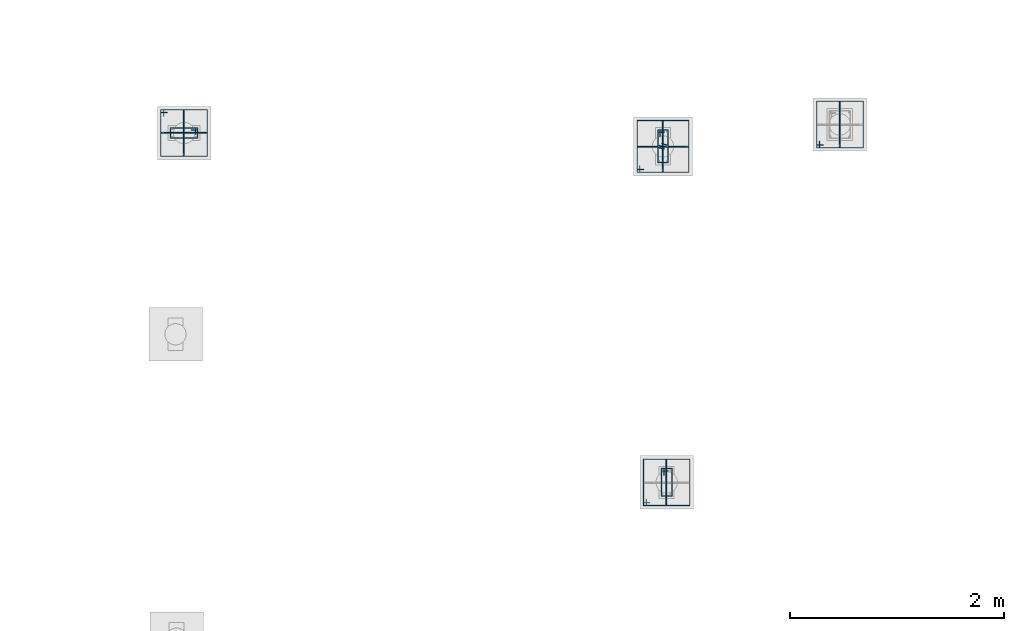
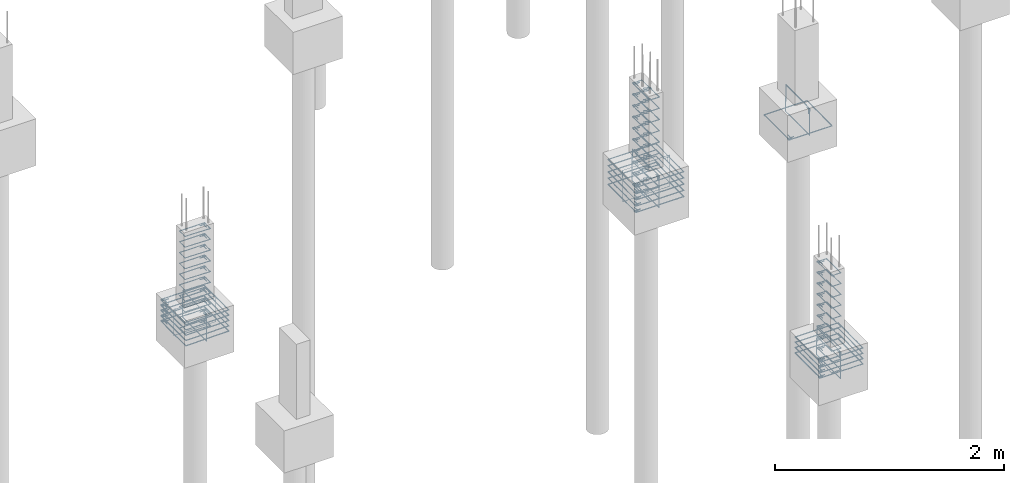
# One storey, part 91 of 119: 61 reinforcing bars.
"""IFC4 building model written with IfcOpenShell, lengths in centimetres."""

from ifc_helpers import new_model, entity, si_unit, derived_unit, frame, origin_with_axes, place, context, project, spatial, source, transform, mapped, element, save


model = new_model("IFC4")

# Units and contexts
model_context = context("Model", 3, precision=1e-05, world=origin_with_axes(), identifier="Body")
ifc_project = project(units=[si_unit("LENGTHUNIT", "METRE", prefix="CENTI"), si_unit("VOLUMEUNIT", "CUBIC_METRE"), si_unit("AREAUNIT", "SQUARE_METRE"), si_unit("POWERUNIT", "WATT"), si_unit("LUMINOUSFLUXUNIT", "LUMEN"), si_unit("ELECTRICCURRENTUNIT", "AMPERE"), si_unit("PRESSUREUNIT", "PASCAL", prefix="KILO"), si_unit("MASSUNIT", "GRAM", prefix="KILO"), si_unit("PLANEANGLEUNIT", "RADIAN"), derived_unit("VOLUMETRICFLOWRATEUNIT", [(si_unit("LENGTHUNIT", "METRE"), 3), (si_unit("TIMEUNIT", "SECOND"), -1)])], contexts=[model_context])

# Site, building, storey
site_placement = place(None, frame((-4000.0, 0.0, 0.0), z_axis=(0.0, 0.0, 1.0), x_axis=(1.0, 0.0, 0.0)))
site = spatial("IfcSite", under=ifc_project, at=site_placement, Name="PADRÃO")
building_placement = place(site_placement, frame((0.0, 0.0, -14.0)))
building = spatial("IfcBuilding", under=site, at=building_placement, Name="CRECHE PRÉ-ESCOLA TIPO 2")
storey_placement = place(building_placement, origin_with_axes())
storey = spatial("IfcBuildingStorey", under=building, at=storey_placement, Name="FUNDAÇÃO", CompositionType="ELEMENT", Elevation=-14.0)

# Reinforcing bars
shared_shape_1 = source(origin_with_axes(), model_context, "Body", "AdvancedSweptSolid", [
    entity("IfcSweptDiskSolid", entity("IfcCompositeCurve", [entity("IfcCompositeCurveSegment", "CONTINUOUS", True, entity("IfcPolyline", [entity("IfcCartesianPoint", [3129.595, 2567.355, 0.0]), entity("IfcCartesianPoint", [3123.335, 2567.355, 0.0])])), entity("IfcCompositeCurveSegment", "CONTINUOUS", True, entity("IfcPolyline", [entity("IfcCartesianPoint", [3123.335, 2567.355, 0.0]), entity("IfcCartesianPoint", [3123.335, 2564.835, 0.0])])), entity("IfcCompositeCurveSegment", "CONTINUOUS", True, entity("IfcPolyline", [entity("IfcCartesianPoint", [3123.335, 2564.835, 0.0]), entity("IfcCartesianPoint", [3166.705, 2564.835, 0.0])])), entity("IfcCompositeCurveSegment", "CONTINUOUS", True, entity("IfcPolyline", [entity("IfcCartesianPoint", [3166.705, 2564.835, 0.0]), entity("IfcCartesianPoint", [3166.705, 2608.205, 0.63])])), entity("IfcCompositeCurveSegment", "CONTINUOUS", True, entity("IfcPolyline", [entity("IfcCartesianPoint", [3166.705, 2608.205, 0.63]), entity("IfcCartesianPoint", [3123.335, 2608.205, 0.63])])), entity("IfcCompositeCurveSegment", "CONTINUOUS", True, entity("IfcPolyline", [entity("IfcCartesianPoint", [3123.335, 2608.205, 0.63]), entity("IfcCartesianPoint", [3123.335, 2564.835, 0.63])])), entity("IfcCompositeCurveSegment", "CONTINUOUS", True, entity("IfcPolyline", [entity("IfcCartesianPoint", [3123.335, 2564.835, 0.63]), entity("IfcCartesianPoint", [3125.855, 2564.835, 0.63])])), entity("IfcCompositeCurveSegment", "CONTINUOUS", True, entity("IfcPolyline", [entity("IfcCartesianPoint", [3125.855, 2564.835, 0.63]), entity("IfcCartesianPoint", [3125.855, 2571.095, 0.63])]))], False), 0.315),
])
reinforcing_bar_1_placement = place(storey_placement, frame((0.0, 0.0, -109.175), z_axis=(0.0, 0.0, 1.0), x_axis=(1.0, 0.0, 0.0)))
element("IfcReinforcingBar", 1, at=reinforcing_bar_1_placement, inside=storey, Name="P74 - Blocos (estribos)", BarLength=0.0, CrossSectionArea=3.1172453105e-05, NominalDiameter=0.63, PredefinedType="MAIN", context=model_context, shape_type="MappedRepresentation", body=[
    mapped(shared_shape_1, transform((0.0, 0.0, 0.0), scale=1.0)),
])
shared_shape_2 = source(origin_with_axes(), model_context, "Body", "AdvancedSweptSolid", [
    entity("IfcSweptDiskSolid", entity("IfcCompositeCurve", [entity("IfcCompositeCurveSegment", "CONTINUOUS", True, entity("IfcPolyline", [entity("IfcCartesianPoint", [-15.12, -12.0, 0.0]), entity("IfcCartesianPoint", [-21.12, -12.0, 0.0])])), entity("IfcCompositeCurveSegment", "CONTINUOUS", True, entity("IfcPolyline", [entity("IfcCartesianPoint", [-21.12, -12.0, 0.0]), entity("IfcCartesianPoint", [-21.12, -14.0, 0.0])])), entity("IfcCompositeCurveSegment", "CONTINUOUS", True, entity("IfcPolyline", [entity("IfcCartesianPoint", [-21.12, -14.0, 0.0]), entity("IfcCartesianPoint", [21.12, -14.0, 0.0])])), entity("IfcCompositeCurveSegment", "CONTINUOUS", True, entity("IfcPolyline", [entity("IfcCartesianPoint", [21.12, -14.0, 0.0]), entity("IfcCartesianPoint", [21.12, 14.0, 0.5])])), entity("IfcCompositeCurveSegment", "CONTINUOUS", True, entity("IfcPolyline", [entity("IfcCartesianPoint", [21.12, 14.0, 0.5]), entity("IfcCartesianPoint", [-21.12, 14.0, 0.5])])), entity("IfcCompositeCurveSegment", "CONTINUOUS", True, entity("IfcPolyline", [entity("IfcCartesianPoint", [-21.12, 14.0, 0.5]), entity("IfcCartesianPoint", [-21.12, -14.0, 0.5])])), entity("IfcCompositeCurveSegment", "CONTINUOUS", True, entity("IfcPolyline", [entity("IfcCartesianPoint", [-21.12, -14.0, 0.5]), entity("IfcCartesianPoint", [-19.12, -14.0, 0.5])])), entity("IfcCompositeCurveSegment", "CONTINUOUS", True, entity("IfcPolyline", [entity("IfcCartesianPoint", [-19.12, -14.0, 0.5]), entity("IfcCartesianPoint", [-19.12, -8.0, 0.5])]))], False), 0.25),
])
reinforcing_bar_2_placement = place(storey_placement, frame((3145.02, 2586.52, -97.75), z_axis=(-1.0, 0.0, 0.0), x_axis=(0.0, 1.0, 0.0)))
element("IfcReinforcingBar", 2, at=reinforcing_bar_2_placement, inside=storey, Name="P74 - Blocos (estribos)", BarLength=0.0, CrossSectionArea=1.9634954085e-05, NominalDiameter=0.5, PredefinedType="MAIN", context=model_context, shape_type="MappedRepresentation", body=[
    mapped(shared_shape_2, transform((0.0, 0.0, 0.0), scale=1.0)),
])
shared_shape_3 = source(origin_with_axes(), model_context, "Body", "AdvancedSweptSolid", [
    entity("IfcSweptDiskSolid", entity("IfcCompositeCurve", [entity("IfcCompositeCurveSegment", "CONTINUOUS", True, entity("IfcPolyline", [entity("IfcCartesianPoint", [4.25, 26.75, 0.0]), entity("IfcCartesianPoint", [4.25, 32.75, 0.0])])), entity("IfcCompositeCurveSegment", "CONTINUOUS", True, entity("IfcPolyline", [entity("IfcCartesianPoint", [4.25, 32.75, 0.0]), entity("IfcCartesianPoint", [2.25, 32.75, 0.0])])), entity("IfcCompositeCurveSegment", "CONTINUOUS", True, entity("IfcPolyline", [entity("IfcCartesianPoint", [2.25, 32.75, 0.0]), entity("IfcCartesianPoint", [2.25, 2.25, 0.0])])), entity("IfcCompositeCurveSegment", "CONTINUOUS", True, entity("IfcPolyline", [entity("IfcCartesianPoint", [2.25, 2.25, 0.0]), entity("IfcCartesianPoint", [11.75, 2.25, 0.0])])), entity("IfcCompositeCurveSegment", "CONTINUOUS", True, entity("IfcPolyline", [entity("IfcCartesianPoint", [11.75, 2.25, 0.0]), entity("IfcCartesianPoint", [11.75, 32.75, -0.5])])), entity("IfcCompositeCurveSegment", "CONTINUOUS", True, entity("IfcPolyline", [entity("IfcCartesianPoint", [11.75, 32.75, -0.5]), entity("IfcCartesianPoint", [2.25, 32.75, -0.5])])), entity("IfcCompositeCurveSegment", "CONTINUOUS", True, entity("IfcPolyline", [entity("IfcCartesianPoint", [2.25, 32.75, -0.5]), entity("IfcCartesianPoint", [2.25, 30.75, -0.5])])), entity("IfcCompositeCurveSegment", "CONTINUOUS", True, entity("IfcPolyline", [entity("IfcCartesianPoint", [2.25, 30.75, -0.5]), entity("IfcCartesianPoint", [8.25, 30.75, -0.5])]))], False), 0.25),
])
for number, where, z_axis, x_axis, name in (
    (3, (2972.5, 2548.52, -102.0), (0.0, 0.0, 1.0), (1.0, 0.0, 0.0), "P73 - Estribo"),
    (4, (2972.5, 2548.52, -90.0), (0.0, 0.0, 1.0), (1.0, 0.0, 0.0), "P73 - Estribo"),
    (5, (2972.5, 2548.52, -114.0), (0.0, 0.0, 1.0), (1.0, 0.0, 0.0), "P73 - Estribo"),
    (6, (2972.5, 2548.52, -54.0), (0.0, 0.0, 1.0), (1.0, 0.0, 0.0), "P73 - Estribo"),
    (7, (2972.5, 2548.52, -6.0), (0.0, 0.0, 1.0), (1.0, 0.0, 0.0), "P73 - Estribo"),
    (8, (2972.5, 2548.52, -18.0), (0.0, 0.0, 1.0), (1.0, 0.0, 0.0), "P73 - Estribo"),
    (9, (2972.5, 2548.52, -30.0), (0.0, 0.0, 1.0), (1.0, 0.0, 0.0), "P73 - Estribo"),
    (10, (2972.5, 2548.52, -42.0), (0.0, 0.0, 1.0), (1.0, 0.0, 0.0), "P73 - Estribo"),
    (11, (2972.5, 2548.52, -66.0), (0.0, 0.0, 1.0), (1.0, 0.0, 0.0), "P73 - Estribo"),
    (12, (2972.5, 2548.52, -78.0), (0.0, 0.0, 1.0), (1.0, 0.0, 0.0), "P73 - Estribo"),
):
    element("IfcReinforcingBar", number, at=place(storey_placement, frame(where, z_axis=z_axis, x_axis=x_axis)), inside=storey, Name=name, BarLength=0.0, CrossSectionArea=1.9634954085e-05, NominalDiameter=0.5, PredefinedType="MAIN", context=model_context, shape_type="MappedRepresentation", body=[
        mapped(shared_shape_3, transform((0.0, 0.0, 0.0), scale=1.0)),
    ])
shared_shape_4 = source(origin_with_axes(), model_context, "Body", "AdvancedSweptSolid", [
    entity("IfcSweptDiskSolid", entity("IfcCompositeCurve", [entity("IfcCompositeCurveSegment", "CONTINUOUS", True, entity("IfcPolyline", [entity("IfcCartesianPoint", [5.8862791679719, 20.0449050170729, 0.0]), entity("IfcCartesianPoint", [11.75, 18.5, 0.0])])), entity("IfcCompositeCurveSegment", "CONTINUOUS", True, entity("IfcPolyline", [entity("IfcCartesianPoint", [11.75, 18.5, 0.0]), entity("IfcCartesianPoint", [11.75, 16.5, 0.0])])), entity("IfcCompositeCurveSegment", "CONTINUOUS", True, entity("IfcPolyline", [entity("IfcCartesianPoint", [11.75, 16.5, 0.0]), entity("IfcCartesianPoint", [2.25, 18.5, 0.0])])), entity("IfcCompositeCurveSegment", "CONTINUOUS", True, entity("IfcPolyline", [entity("IfcCartesianPoint", [2.25, 18.5, 0.0]), entity("IfcCartesianPoint", [2.25, 16.5, 0.0])])), entity("IfcCompositeCurveSegment", "CONTINUOUS", True, entity("IfcPolyline", [entity("IfcCartesianPoint", [2.25, 16.5, 0.0]), entity("IfcCartesianPoint", [8.11372083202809, 14.9550949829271, 0.0])]))], False), 0.25),
])
for number, where, z_axis, x_axis, name in (
    (13, (2972.5, 2548.52, -53.5), (0.0, 0.0, 1.0), (1.0, 0.0, 0.0), "P73 - Grampo"),
    (14, (2972.5, 2548.52, -65.5), (0.0, 0.0, 1.0), (1.0, 0.0, 0.0), "P73 - Grampo"),
    (15, (2972.5, 2548.52, -77.5), (0.0, 0.0, 1.0), (1.0, 0.0, 0.0), "P73 - Grampo"),
    (16, (2972.5, 2548.52, -89.5), (0.0, 0.0, 1.0), (1.0, 0.0, 0.0), "P73 - Grampo"),
    (17, (2972.5, 2548.52, -101.5), (0.0, 0.0, 1.0), (1.0, 0.0, 0.0), "P73 - Grampo"),
    (18, (2972.5, 2548.52, -41.5), (0.0, 0.0, 1.0), (1.0, 0.0, 0.0), "P73 - Grampo"),
    (19, (2972.5, 2548.52, -29.5), (0.0, 0.0, 1.0), (1.0, 0.0, 0.0), "P73 - Grampo"),
    (20, (2972.5, 2548.52, -17.5), (0.0, 0.0, 1.0), (1.0, 0.0, 0.0), "P73 - Grampo"),
    (21, (2972.5, 2548.52, -113.5), (0.0, 0.0, 1.0), (1.0, 0.0, 0.0), "P73 - Grampo"),
    (22, (2972.5, 2548.52, -5.5), (0.0, 0.0, 1.0), (1.0, 0.0, 0.0), "P73 - Grampo"),
):
    element("IfcReinforcingBar", number, at=place(storey_placement, frame(where, z_axis=z_axis, x_axis=x_axis)), inside=storey, Name=name, BarLength=0.0, CrossSectionArea=1.9634954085e-05, NominalDiameter=0.5, PredefinedType="MAIN", context=model_context, shape_type="MappedRepresentation", body=[
        mapped(shared_shape_4, transform((0.0, 0.0, 0.0), scale=1.0)),
    ])
shared_shape_5 = source(origin_with_axes(), model_context, "Body", "AdvancedSweptSolid", [
    entity("IfcSweptDiskSolid", entity("IfcCompositeCurve", [entity("IfcCompositeCurveSegment", "CONTINUOUS", True, entity("IfcPolyline", [entity("IfcCartesianPoint", [2961.575, 2544.355, 0.0]), entity("IfcCartesianPoint", [2955.315, 2544.355, 0.0])])), entity("IfcCompositeCurveSegment", "CONTINUOUS", True, entity("IfcPolyline", [entity("IfcCartesianPoint", [2955.315, 2544.355, 0.0]), entity("IfcCartesianPoint", [2955.315, 2541.835, 0.0])])), entity("IfcCompositeCurveSegment", "CONTINUOUS", True, entity("IfcPolyline", [entity("IfcCartesianPoint", [2955.315, 2541.835, 0.0]), entity("IfcCartesianPoint", [3003.685, 2541.835, 0.0])])), entity("IfcCompositeCurveSegment", "CONTINUOUS", True, entity("IfcPolyline", [entity("IfcCartesianPoint", [3003.685, 2541.835, 0.0]), entity("IfcCartesianPoint", [3003.685, 2590.205, 0.63])])), entity("IfcCompositeCurveSegment", "CONTINUOUS", True, entity("IfcPolyline", [entity("IfcCartesianPoint", [3003.685, 2590.205, 0.63]), entity("IfcCartesianPoint", [2955.315, 2590.205, 0.63])])), entity("IfcCompositeCurveSegment", "CONTINUOUS", True, entity("IfcPolyline", [entity("IfcCartesianPoint", [2955.315, 2590.205, 0.63]), entity("IfcCartesianPoint", [2955.315, 2541.835, 0.63])])), entity("IfcCompositeCurveSegment", "CONTINUOUS", True, entity("IfcPolyline", [entity("IfcCartesianPoint", [2955.315, 2541.835, 0.63]), entity("IfcCartesianPoint", [2957.835, 2541.835, 0.63])])), entity("IfcCompositeCurveSegment", "CONTINUOUS", True, entity("IfcPolyline", [entity("IfcCartesianPoint", [2957.835, 2541.835, 0.63]), entity("IfcCartesianPoint", [2957.835, 2548.095, 0.63])]))], False), 0.315),
])
for number, where, z_axis, x_axis, name in (
    (23, (0.0, 0.0, -113.675), (0.0, 0.0, 1.0), (1.0, 0.0, 0.0), "P73 - Blocos (estribos)"),
    (24, (0.0, 0.0, -107.025), (0.0, 0.0, 1.0), (1.0, 0.0, 0.0), "P73 - Blocos (estribos)"),
    (25, (0.0, 0.0, -100.375), (0.0, 0.0, 1.0), (1.0, 0.0, 0.0), "P73 - Blocos (estribos)"),
    (26, (0.0, 0.0, -93.725), (0.0, 0.0, 1.0), (1.0, 0.0, 0.0), "P73 - Blocos (estribos)"),
    (27, (0.0, 0.0, -87.075), (0.0, 0.0, 1.0), (1.0, 0.0, 0.0), "P73 - Blocos (estribos)"),
):
    element("IfcReinforcingBar", number, at=place(storey_placement, frame(where, z_axis=z_axis, x_axis=x_axis)), inside=storey, Name=name, BarLength=0.0, CrossSectionArea=3.1172453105e-05, NominalDiameter=0.63, PredefinedType="MAIN", context=model_context, shape_type="MappedRepresentation", body=[
        mapped(shared_shape_5, transform((0.0, 0.0, 0.0), scale=1.0)),
    ])
shared_shape_6 = source(origin_with_axes(), model_context, "Body", "AdvancedSweptSolid", [
    entity("IfcSweptDiskSolid", entity("IfcCompositeCurve", [entity("IfcCompositeCurveSegment", "CONTINUOUS", True, entity("IfcPolyline", [entity("IfcCartesianPoint", [-17.62, -14.5, 0.0]), entity("IfcCartesianPoint", [-23.62, -14.5, 0.0])])), entity("IfcCompositeCurveSegment", "CONTINUOUS", True, entity("IfcPolyline", [entity("IfcCartesianPoint", [-23.62, -14.5, 0.0]), entity("IfcCartesianPoint", [-23.62, -16.5, 0.0])])), entity("IfcCompositeCurveSegment", "CONTINUOUS", True, entity("IfcPolyline", [entity("IfcCartesianPoint", [-23.62, -16.5, 0.0]), entity("IfcCartesianPoint", [23.62, -16.5, 0.0])])), entity("IfcCompositeCurveSegment", "CONTINUOUS", True, entity("IfcPolyline", [entity("IfcCartesianPoint", [23.62, -16.5, 0.0]), entity("IfcCartesianPoint", [23.62, 16.5, 0.5])])), entity("IfcCompositeCurveSegment", "CONTINUOUS", True, entity("IfcPolyline", [entity("IfcCartesianPoint", [23.62, 16.5, 0.5]), entity("IfcCartesianPoint", [-23.62, 16.5, 0.5])])), entity("IfcCompositeCurveSegment", "CONTINUOUS", True, entity("IfcPolyline", [entity("IfcCartesianPoint", [-23.62, 16.5, 0.5]), entity("IfcCartesianPoint", [-23.62, -16.5, 0.5])])), entity("IfcCompositeCurveSegment", "CONTINUOUS", True, entity("IfcPolyline", [entity("IfcCartesianPoint", [-23.62, -16.5, 0.5]), entity("IfcCartesianPoint", [-21.62, -16.5, 0.5])])), entity("IfcCompositeCurveSegment", "CONTINUOUS", True, entity("IfcPolyline", [entity("IfcCartesianPoint", [-21.62, -16.5, 0.5]), entity("IfcCartesianPoint", [-21.62, -10.5, 0.5])]))], False), 0.25),
])
reinforcing_bar_3_placement = place(storey_placement, frame((2979.5, 2566.02, -100.25), z_axis=(-1.0, 0.0, 0.0), x_axis=(0.0, 1.0, 0.0)))
element("IfcReinforcingBar", 28, at=reinforcing_bar_3_placement, inside=storey, Name="P73 - Blocos (estribos)", BarLength=0.0, CrossSectionArea=1.9634954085e-05, NominalDiameter=0.5, PredefinedType="MAIN", context=model_context, shape_type="MappedRepresentation", body=[
    mapped(shared_shape_6, transform((0.0, 0.0, 0.0), scale=1.0)),
])
shared_shape_7 = source(origin_with_axes(), model_context, "Body", "AdvancedSweptSolid", [
    entity("IfcSweptDiskSolid", entity("IfcCompositeCurve", [entity("IfcCompositeCurveSegment", "CONTINUOUS", True, entity("IfcPolyline", [entity("IfcCartesianPoint", [-17.62, -14.5, 0.0]), entity("IfcCartesianPoint", [-23.62, -14.5, 0.0])])), entity("IfcCompositeCurveSegment", "CONTINUOUS", True, entity("IfcPolyline", [entity("IfcCartesianPoint", [-23.62, -14.5, 0.0]), entity("IfcCartesianPoint", [-23.62, -16.5, 0.0])])), entity("IfcCompositeCurveSegment", "CONTINUOUS", True, entity("IfcPolyline", [entity("IfcCartesianPoint", [-23.62, -16.5, 0.0]), entity("IfcCartesianPoint", [23.62, -16.5, 0.0])])), entity("IfcCompositeCurveSegment", "CONTINUOUS", True, entity("IfcPolyline", [entity("IfcCartesianPoint", [23.62, -16.5, 0.0]), entity("IfcCartesianPoint", [23.62, 16.5, 0.5])])), entity("IfcCompositeCurveSegment", "CONTINUOUS", True, entity("IfcPolyline", [entity("IfcCartesianPoint", [23.62, 16.5, 0.5]), entity("IfcCartesianPoint", [-23.62, 16.5, 0.5])])), entity("IfcCompositeCurveSegment", "CONTINUOUS", True, entity("IfcPolyline", [entity("IfcCartesianPoint", [-23.62, 16.5, 0.5]), entity("IfcCartesianPoint", [-23.62, -16.5, 0.5])])), entity("IfcCompositeCurveSegment", "CONTINUOUS", True, entity("IfcPolyline", [entity("IfcCartesianPoint", [-23.62, -16.5, 0.5]), entity("IfcCartesianPoint", [-21.62, -16.5, 0.5])])), entity("IfcCompositeCurveSegment", "CONTINUOUS", True, entity("IfcPolyline", [entity("IfcCartesianPoint", [-21.62, -16.5, 0.5]), entity("IfcCartesianPoint", [-21.62, -10.5, 0.5])]))], False), 0.25),
])
reinforcing_bar_4_placement = place(storey_placement, frame((2979.5, 2566.02, -100.25), z_axis=(0.0, -1.0, 0.0), x_axis=(-1.0, 0.0, 0.0)))
element("IfcReinforcingBar", 29, at=reinforcing_bar_4_placement, inside=storey, Name="P73 - Blocos (estribos)", BarLength=0.0, CrossSectionArea=1.9634954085e-05, NominalDiameter=0.5, PredefinedType="MAIN", context=model_context, shape_type="MappedRepresentation", body=[
    mapped(shared_shape_7, transform((0.0, 0.0, 0.0), scale=1.0)),
])
shared_shape_8 = source(origin_with_axes(), model_context, "Body", "AdvancedSweptSolid", [
    entity("IfcSweptDiskSolid", entity("IfcCompositeCurve", [entity("IfcCompositeCurveSegment", "CONTINUOUS", True, entity("IfcPolyline", [entity("IfcCartesianPoint", [4.25, 21.75, 0.0]), entity("IfcCartesianPoint", [4.25, 27.75, 0.0])])), entity("IfcCompositeCurveSegment", "CONTINUOUS", True, entity("IfcPolyline", [entity("IfcCartesianPoint", [4.25, 27.75, 0.0]), entity("IfcCartesianPoint", [2.25, 27.75, 0.0])])), entity("IfcCompositeCurveSegment", "CONTINUOUS", True, entity("IfcPolyline", [entity("IfcCartesianPoint", [2.25, 27.75, 0.0]), entity("IfcCartesianPoint", [2.25, 2.25, 0.0])])), entity("IfcCompositeCurveSegment", "CONTINUOUS", True, entity("IfcPolyline", [entity("IfcCartesianPoint", [2.25, 2.25, 0.0]), entity("IfcCartesianPoint", [11.75, 2.25, 0.0])])), entity("IfcCompositeCurveSegment", "CONTINUOUS", True, entity("IfcPolyline", [entity("IfcCartesianPoint", [11.75, 2.25, 0.0]), entity("IfcCartesianPoint", [11.75, 27.75, -0.5])])), entity("IfcCompositeCurveSegment", "CONTINUOUS", True, entity("IfcPolyline", [entity("IfcCartesianPoint", [11.75, 27.75, -0.5]), entity("IfcCartesianPoint", [2.25, 27.75, -0.5])])), entity("IfcCompositeCurveSegment", "CONTINUOUS", True, entity("IfcPolyline", [entity("IfcCartesianPoint", [2.25, 27.75, -0.5]), entity("IfcCartesianPoint", [2.25, 25.75, -0.5])])), entity("IfcCompositeCurveSegment", "CONTINUOUS", True, entity("IfcPolyline", [entity("IfcCartesianPoint", [2.25, 25.75, -0.5]), entity("IfcCartesianPoint", [8.25, 25.75, -0.5])]))], False), 0.25),
])
for number, where, z_axis, x_axis, name in (
    (30, (2516.5, 2585.52, -5.75), (0.0, 0.0, 1.0), (0.0, -1.0, 0.0), "P72 - Estribo"),
    (31, (2516.5, 2585.52, -17.25), (0.0, 0.0, 1.0), (0.0, -1.0, 0.0), "P72 - Estribo"),
    (32, (2516.5, 2585.52, -28.75), (0.0, 0.0, 1.0), (0.0, -1.0, 0.0), "P72 - Estribo"),
    (33, (2516.5, 2585.52, -51.75), (0.0, 0.0, 1.0), (0.0, -1.0, 0.0), "P72 - Estribo"),
    (34, (2516.5, 2585.52, -40.25), (0.0, 0.0, 1.0), (0.0, -1.0, 0.0), "P72 - Estribo"),
    (35, (2516.5, 2585.52, -63.25), (0.0, 0.0, 1.0), (0.0, -1.0, 0.0), "P72 - Estribo"),
    (36, (2516.5, 2585.52, -74.75), (0.0, 0.0, 1.0), (0.0, -1.0, 0.0), "P72 - Estribo"),
    (37, (2516.5, 2585.52, -86.25), (0.0, 0.0, 1.0), (0.0, -1.0, 0.0), "P72 - Estribo"),
    (38, (2516.5, 2585.52, -97.75), (0.0, 0.0, 1.0), (0.0, -1.0, 0.0), "P72 - Estribo"),
    (39, (2516.5, 2585.52, -109.25), (0.0, 0.0, 1.0), (0.0, -1.0, 0.0), "P72 - Estribo"),
):
    element("IfcReinforcingBar", number, at=place(storey_placement, frame(where, z_axis=z_axis, x_axis=x_axis)), inside=storey, Name=name, BarLength=0.0, CrossSectionArea=1.9634954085e-05, NominalDiameter=0.5, PredefinedType="MAIN", context=model_context, shape_type="MappedRepresentation", body=[
        mapped(shared_shape_8, transform((0.0, 0.0, 0.0), scale=1.0)),
    ])
shared_shape_9 = source(origin_with_axes(), model_context, "Body", "AdvancedSweptSolid", [
    entity("IfcSweptDiskSolid", entity("IfcCompositeCurve", [entity("IfcCompositeCurveSegment", "CONTINUOUS", True, entity("IfcPolyline", [entity("IfcCartesianPoint", [2512.335, 2593.945, 0.0]), entity("IfcCartesianPoint", [2512.335, 2600.205, 0.0])])), entity("IfcCompositeCurveSegment", "CONTINUOUS", True, entity("IfcPolyline", [entity("IfcCartesianPoint", [2512.335, 2600.205, 0.0]), entity("IfcCartesianPoint", [2509.815, 2600.205, 0.0])])), entity("IfcCompositeCurveSegment", "CONTINUOUS", True, entity("IfcPolyline", [entity("IfcCartesianPoint", [2509.815, 2600.205, 0.0]), entity("IfcCartesianPoint", [2509.815, 2556.835, 0.0])])), entity("IfcCompositeCurveSegment", "CONTINUOUS", True, entity("IfcPolyline", [entity("IfcCartesianPoint", [2509.815, 2556.835, 0.0]), entity("IfcCartesianPoint", [2553.185, 2556.835, 0.63])])), entity("IfcCompositeCurveSegment", "CONTINUOUS", True, entity("IfcPolyline", [entity("IfcCartesianPoint", [2553.185, 2556.835, 0.63]), entity("IfcCartesianPoint", [2553.185, 2600.205, 0.63])])), entity("IfcCompositeCurveSegment", "CONTINUOUS", True, entity("IfcPolyline", [entity("IfcCartesianPoint", [2553.185, 2600.205, 0.63]), entity("IfcCartesianPoint", [2509.815, 2600.205, 0.63])])), entity("IfcCompositeCurveSegment", "CONTINUOUS", True, entity("IfcPolyline", [entity("IfcCartesianPoint", [2509.815, 2600.205, 0.63]), entity("IfcCartesianPoint", [2509.815, 2597.685, 0.63])])), entity("IfcCompositeCurveSegment", "CONTINUOUS", True, entity("IfcPolyline", [entity("IfcCartesianPoint", [2509.815, 2597.685, 0.63]), entity("IfcCartesianPoint", [2516.075, 2597.685, 0.63])]))], False), 0.315),
])
for number, where, z_axis, x_axis, name in (
    (40, (0.0, 0.0, -86.575), (0.0, 0.0, 1.0), (1.0, 0.0, 0.0), "P72 - Blocos (estribos)"),
    (41, (0.0, 0.0, -92.225), (0.0, 0.0, 1.0), (1.0, 0.0, 0.0), "P72 - Blocos (estribos)"),
    (42, (0.0, 0.0, -97.875), (0.0, 0.0, 1.0), (1.0, 0.0, 0.0), "P72 - Blocos (estribos)"),
    (43, (0.0, 0.0, -109.175), (0.0, 0.0, 1.0), (1.0, 0.0, 0.0), "P72 - Blocos (estribos)"),
    (44, (0.0, 0.0, -103.525), (0.0, 0.0, 1.0), (1.0, 0.0, 0.0), "P72 - Blocos (estribos)"),
):
    element("IfcReinforcingBar", number, at=place(storey_placement, frame(where, z_axis=z_axis, x_axis=x_axis)), inside=storey, Name=name, BarLength=0.0, CrossSectionArea=3.1172453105e-05, NominalDiameter=0.63, PredefinedType="MAIN", context=model_context, shape_type="MappedRepresentation", body=[
        mapped(shared_shape_9, transform((0.0, 0.0, 0.0), scale=1.0)),
    ])
shared_shape_10 = source(origin_with_axes(), model_context, "Body", "AdvancedSweptSolid", [
    entity("IfcSweptDiskSolid", entity("IfcCompositeCurve", [entity("IfcCompositeCurveSegment", "CONTINUOUS", True, entity("IfcPolyline", [entity("IfcCartesianPoint", [-15.12, -12.0, 0.0]), entity("IfcCartesianPoint", [-21.12, -12.0, 0.0])])), entity("IfcCompositeCurveSegment", "CONTINUOUS", True, entity("IfcPolyline", [entity("IfcCartesianPoint", [-21.12, -12.0, 0.0]), entity("IfcCartesianPoint", [-21.12, -14.0, 0.0])])), entity("IfcCompositeCurveSegment", "CONTINUOUS", True, entity("IfcPolyline", [entity("IfcCartesianPoint", [-21.12, -14.0, 0.0]), entity("IfcCartesianPoint", [21.12, -14.0, 0.0])])), entity("IfcCompositeCurveSegment", "CONTINUOUS", True, entity("IfcPolyline", [entity("IfcCartesianPoint", [21.12, -14.0, 0.0]), entity("IfcCartesianPoint", [21.12, 14.0, 0.5])])), entity("IfcCompositeCurveSegment", "CONTINUOUS", True, entity("IfcPolyline", [entity("IfcCartesianPoint", [21.12, 14.0, 0.5]), entity("IfcCartesianPoint", [-21.12, 14.0, 0.5])])), entity("IfcCompositeCurveSegment", "CONTINUOUS", True, entity("IfcPolyline", [entity("IfcCartesianPoint", [-21.12, 14.0, 0.5]), entity("IfcCartesianPoint", [-21.12, -14.0, 0.5])])), entity("IfcCompositeCurveSegment", "CONTINUOUS", True, entity("IfcPolyline", [entity("IfcCartesianPoint", [-21.12, -14.0, 0.5]), entity("IfcCartesianPoint", [-19.12, -14.0, 0.5])])), entity("IfcCompositeCurveSegment", "CONTINUOUS", True, entity("IfcPolyline", [entity("IfcCartesianPoint", [-19.12, -14.0, 0.5]), entity("IfcCartesianPoint", [-19.12, -8.0, 0.5])]))], False), 0.25),
])
reinforcing_bar_5_placement = place(storey_placement, frame((2531.5, 2578.52, -97.75), z_axis=(0.0, 1.0, 0.0), x_axis=(1.0, 0.0, 0.0)))
element("IfcReinforcingBar", 45, at=reinforcing_bar_5_placement, inside=storey, Name="P72 - Blocos (estribos)", BarLength=0.0, CrossSectionArea=1.9634954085e-05, NominalDiameter=0.5, PredefinedType="MAIN", context=model_context, shape_type="MappedRepresentation", body=[
    mapped(shared_shape_10, transform((0.0, 0.0, 0.0), scale=1.0)),
])
shared_shape_11 = source(origin_with_axes(), model_context, "Body", "AdvancedSweptSolid", [
    entity("IfcSweptDiskSolid", entity("IfcCompositeCurve", [entity("IfcCompositeCurveSegment", "CONTINUOUS", True, entity("IfcPolyline", [entity("IfcCartesianPoint", [-15.12, -12.0, 0.0]), entity("IfcCartesianPoint", [-21.12, -12.0, 0.0])])), entity("IfcCompositeCurveSegment", "CONTINUOUS", True, entity("IfcPolyline", [entity("IfcCartesianPoint", [-21.12, -12.0, 0.0]), entity("IfcCartesianPoint", [-21.12, -14.0, 0.0])])), entity("IfcCompositeCurveSegment", "CONTINUOUS", True, entity("IfcPolyline", [entity("IfcCartesianPoint", [-21.12, -14.0, 0.0]), entity("IfcCartesianPoint", [21.12, -14.0, 0.0])])), entity("IfcCompositeCurveSegment", "CONTINUOUS", True, entity("IfcPolyline", [entity("IfcCartesianPoint", [21.12, -14.0, 0.0]), entity("IfcCartesianPoint", [21.12, 14.0, 0.5])])), entity("IfcCompositeCurveSegment", "CONTINUOUS", True, entity("IfcPolyline", [entity("IfcCartesianPoint", [21.12, 14.0, 0.5]), entity("IfcCartesianPoint", [-21.12, 14.0, 0.5])])), entity("IfcCompositeCurveSegment", "CONTINUOUS", True, entity("IfcPolyline", [entity("IfcCartesianPoint", [-21.12, 14.0, 0.5]), entity("IfcCartesianPoint", [-21.12, -14.0, 0.5])])), entity("IfcCompositeCurveSegment", "CONTINUOUS", True, entity("IfcPolyline", [entity("IfcCartesianPoint", [-21.12, -14.0, 0.5]), entity("IfcCartesianPoint", [-19.12, -14.0, 0.5])])), entity("IfcCompositeCurveSegment", "CONTINUOUS", True, entity("IfcPolyline", [entity("IfcCartesianPoint", [-19.12, -14.0, 0.5]), entity("IfcCartesianPoint", [-19.12, -8.0, 0.5])]))], False), 0.25),
])
reinforcing_bar_6_placement = place(storey_placement, frame((2531.5, 2578.52, -97.75), z_axis=(-1.0, 0.0, 0.0), x_axis=(0.0, 1.0, 0.0)))
element("IfcReinforcingBar", 46, at=reinforcing_bar_6_placement, inside=storey, Name="P72 - Blocos (estribos)", BarLength=0.0, CrossSectionArea=1.9634954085e-05, NominalDiameter=0.5, PredefinedType="MAIN", context=model_context, shape_type="MappedRepresentation", body=[
    mapped(shared_shape_11, transform((0.0, 0.0, 0.0), scale=1.0)),
])
shared_shape_12 = source(origin_with_axes(), model_context, "Body", "AdvancedSweptSolid", [
    entity("IfcSweptDiskSolid", entity("IfcCompositeCurve", [entity("IfcCompositeCurveSegment", "CONTINUOUS", True, entity("IfcPolyline", [entity("IfcCartesianPoint", [4.25, 21.75, 0.0]), entity("IfcCartesianPoint", [4.25, 27.75, 0.0])])), entity("IfcCompositeCurveSegment", "CONTINUOUS", True, entity("IfcPolyline", [entity("IfcCartesianPoint", [4.25, 27.75, 0.0]), entity("IfcCartesianPoint", [2.25, 27.75, 0.0])])), entity("IfcCompositeCurveSegment", "CONTINUOUS", True, entity("IfcPolyline", [entity("IfcCartesianPoint", [2.25, 27.75, 0.0]), entity("IfcCartesianPoint", [2.25, 2.25, 0.0])])), entity("IfcCompositeCurveSegment", "CONTINUOUS", True, entity("IfcPolyline", [entity("IfcCartesianPoint", [2.25, 2.25, 0.0]), entity("IfcCartesianPoint", [11.75, 2.25, 0.0])])), entity("IfcCompositeCurveSegment", "CONTINUOUS", True, entity("IfcPolyline", [entity("IfcCartesianPoint", [11.75, 2.25, 0.0]), entity("IfcCartesianPoint", [11.75, 27.75, -0.5])])), entity("IfcCompositeCurveSegment", "CONTINUOUS", True, entity("IfcPolyline", [entity("IfcCartesianPoint", [11.75, 27.75, -0.5]), entity("IfcCartesianPoint", [2.25, 27.75, -0.5])])), entity("IfcCompositeCurveSegment", "CONTINUOUS", True, entity("IfcPolyline", [entity("IfcCartesianPoint", [2.25, 27.75, -0.5]), entity("IfcCartesianPoint", [2.25, 25.75, -0.5])])), entity("IfcCompositeCurveSegment", "CONTINUOUS", True, entity("IfcPolyline", [entity("IfcCartesianPoint", [2.25, 25.75, -0.5]), entity("IfcCartesianPoint", [8.25, 25.75, -0.5])]))], False), 0.25),
])
for number, where, z_axis, x_axis, name in (
    (47, (2976.0, 2236.77, -51.75), (0.0, 0.0, 1.0), (1.0, 0.0, 0.0), "P80 - Estribo"),
    (48, (2976.0, 2236.77, -97.75), (0.0, 0.0, 1.0), (1.0, 0.0, 0.0), "P80 - Estribo"),
    (49, (2976.0, 2236.77, -5.75), (0.0, 0.0, 1.0), (1.0, 0.0, 0.0), "P80 - Estribo"),
    (50, (2976.0, 2236.77, -17.25), (0.0, 0.0, 1.0), (1.0, 0.0, 0.0), "P80 - Estribo"),
    (51, (2976.0, 2236.77, -28.75), (0.0, 0.0, 1.0), (1.0, 0.0, 0.0), "P80 - Estribo"),
    (52, (2976.0, 2236.77, -40.25), (0.0, 0.0, 1.0), (1.0, 0.0, 0.0), "P80 - Estribo"),
    (53, (2976.0, 2236.77, -63.25), (0.0, 0.0, 1.0), (1.0, 0.0, 0.0), "P80 - Estribo"),
    (54, (2976.0, 2236.77, -74.75), (0.0, 0.0, 1.0), (1.0, 0.0, 0.0), "P80 - Estribo"),
    (55, (2976.0, 2236.77, -109.25), (0.0, 0.0, 1.0), (1.0, 0.0, 0.0), "P80 - Estribo"),
    (56, (2976.0, 2236.77, -86.25), (0.0, 0.0, 1.0), (1.0, 0.0, 0.0), "P80 - Estribo"),
):
    element("IfcReinforcingBar", number, at=place(storey_placement, frame(where, z_axis=z_axis, x_axis=x_axis)), inside=storey, Name=name, BarLength=0.0, CrossSectionArea=1.9634954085e-05, NominalDiameter=0.5, PredefinedType="MAIN", context=model_context, shape_type="MappedRepresentation", body=[
        mapped(shared_shape_12, transform((0.0, 0.0, 0.0), scale=1.0)),
    ])
shared_shape_13 = source(origin_with_axes(), model_context, "Body", "AdvancedSweptSolid", [
    entity("IfcSweptDiskSolid", entity("IfcCompositeCurve", [entity("IfcCompositeCurveSegment", "CONTINUOUS", True, entity("IfcPolyline", [entity("IfcCartesianPoint", [2967.575, 2232.605, 0.0]), entity("IfcCartesianPoint", [2961.315, 2232.605, 0.0])])), entity("IfcCompositeCurveSegment", "CONTINUOUS", True, entity("IfcPolyline", [entity("IfcCartesianPoint", [2961.315, 2232.605, 0.0]), entity("IfcCartesianPoint", [2961.315, 2230.085, 0.0])])), entity("IfcCompositeCurveSegment", "CONTINUOUS", True, entity("IfcPolyline", [entity("IfcCartesianPoint", [2961.315, 2230.085, 0.0]), entity("IfcCartesianPoint", [3004.685, 2230.085, 0.0])])), entity("IfcCompositeCurveSegment", "CONTINUOUS", True, entity("IfcPolyline", [entity("IfcCartesianPoint", [3004.685, 2230.085, 0.0]), entity("IfcCartesianPoint", [3004.685, 2273.455, 0.63])])), entity("IfcCompositeCurveSegment", "CONTINUOUS", True, entity("IfcPolyline", [entity("IfcCartesianPoint", [3004.685, 2273.455, 0.63]), entity("IfcCartesianPoint", [2961.315, 2273.455, 0.63])])), entity("IfcCompositeCurveSegment", "CONTINUOUS", True, entity("IfcPolyline", [entity("IfcCartesianPoint", [2961.315, 2273.455, 0.63]), entity("IfcCartesianPoint", [2961.315, 2230.085, 0.63])])), entity("IfcCompositeCurveSegment", "CONTINUOUS", True, entity("IfcPolyline", [entity("IfcCartesianPoint", [2961.315, 2230.085, 0.63]), entity("IfcCartesianPoint", [2963.835, 2230.085, 0.63])])), entity("IfcCompositeCurveSegment", "CONTINUOUS", True, entity("IfcPolyline", [entity("IfcCartesianPoint", [2963.835, 2230.085, 0.63]), entity("IfcCartesianPoint", [2963.835, 2236.345, 0.63])]))], False), 0.315),
])
for number, where, z_axis, x_axis, name in (
    (57, (0.0, 0.0, -86.575), (0.0, 0.0, 1.0), (1.0, 0.0, 0.0), "P80 - Blocos (estribos)"),
    (58, (0.0, 0.0, -92.225), (0.0, 0.0, 1.0), (1.0, 0.0, 0.0), "P80 - Blocos (estribos)"),
    (59, (0.0, 0.0, -97.875), (0.0, 0.0, 1.0), (1.0, 0.0, 0.0), "P80 - Blocos (estribos)"),
    (60, (0.0, 0.0, -103.525), (0.0, 0.0, 1.0), (1.0, 0.0, 0.0), "P80 - Blocos (estribos)"),
):
    element("IfcReinforcingBar", number, at=place(storey_placement, frame(where, z_axis=z_axis, x_axis=x_axis)), inside=storey, Name=name, BarLength=0.0, CrossSectionArea=3.1172453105e-05, NominalDiameter=0.63, PredefinedType="MAIN", context=model_context, shape_type="MappedRepresentation", body=[
        mapped(shared_shape_13, transform((0.0, 0.0, 0.0), scale=1.0)),
    ])
shared_shape_14 = source(origin_with_axes(), model_context, "Body", "AdvancedSweptSolid", [
    entity("IfcSweptDiskSolid", entity("IfcCompositeCurve", [entity("IfcCompositeCurveSegment", "CONTINUOUS", True, entity("IfcPolyline", [entity("IfcCartesianPoint", [-15.12, -12.0, 0.0]), entity("IfcCartesianPoint", [-21.12, -12.0, 0.0])])), entity("IfcCompositeCurveSegment", "CONTINUOUS", True, entity("IfcPolyline", [entity("IfcCartesianPoint", [-21.12, -12.0, 0.0]), entity("IfcCartesianPoint", [-21.12, -14.0, 0.0])])), entity("IfcCompositeCurveSegment", "CONTINUOUS", True, entity("IfcPolyline", [entity("IfcCartesianPoint", [-21.12, -14.0, 0.0]), entity("IfcCartesianPoint", [21.12, -14.0, 0.0])])), entity("IfcCompositeCurveSegment", "CONTINUOUS", True, entity("IfcPolyline", [entity("IfcCartesianPoint", [21.12, -14.0, 0.0]), entity("IfcCartesianPoint", [21.12, 14.0, 0.5])])), entity("IfcCompositeCurveSegment", "CONTINUOUS", True, entity("IfcPolyline", [entity("IfcCartesianPoint", [21.12, 14.0, 0.5]), entity("IfcCartesianPoint", [-21.12, 14.0, 0.5])])), entity("IfcCompositeCurveSegment", "CONTINUOUS", True, entity("IfcPolyline", [entity("IfcCartesianPoint", [-21.12, 14.0, 0.5]), entity("IfcCartesianPoint", [-21.12, -14.0, 0.5])])), entity("IfcCompositeCurveSegment", "CONTINUOUS", True, entity("IfcPolyline", [entity("IfcCartesianPoint", [-21.12, -14.0, 0.5]), entity("IfcCartesianPoint", [-19.12, -14.0, 0.5])])), entity("IfcCompositeCurveSegment", "CONTINUOUS", True, entity("IfcPolyline", [entity("IfcCartesianPoint", [-19.12, -14.0, 0.5]), entity("IfcCartesianPoint", [-19.12, -8.0, 0.5])]))], False), 0.25),
])
reinforcing_bar_7_placement = place(storey_placement, frame((2983.0, 2251.77, -97.75), z_axis=(-1.0, 0.0, 0.0), x_axis=(0.0, 1.0, 0.0)))
element("IfcReinforcingBar", 61, at=reinforcing_bar_7_placement, inside=storey, Name="P80 - Blocos (estribos)", BarLength=0.0, CrossSectionArea=1.9634954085e-05, NominalDiameter=0.5, PredefinedType="MAIN", context=model_context, shape_type="MappedRepresentation", body=[
    mapped(shared_shape_14, transform((0.0, 0.0, 0.0), scale=1.0)),
])

save(model, "model.ifc")
